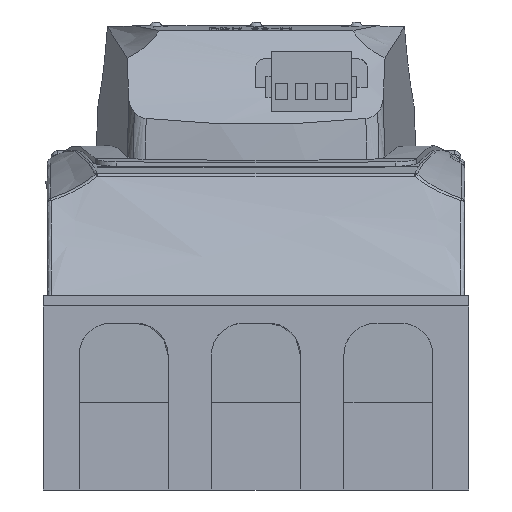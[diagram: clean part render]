
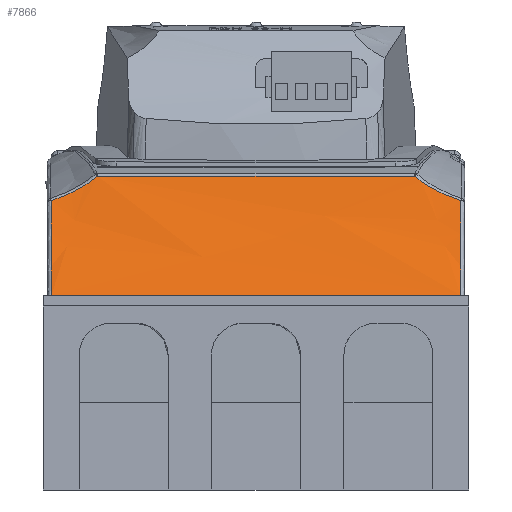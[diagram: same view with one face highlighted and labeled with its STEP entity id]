
A CAD part, left-side view. The second image highlights one B-rep face of the part: STEP entity #7866.
In plain terms, the highlighted face is a extrusion surface.
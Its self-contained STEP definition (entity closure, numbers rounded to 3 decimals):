
#4101=SURFACE_OF_LINEAR_EXTRUSION('',#4986,#14124);
#4986=ELLIPSE('',#32523,35.,12.5);
#7866=ADVANCED_FACE('',(#9473),#4101,.F.);
#9473=FACE_OUTER_BOUND('',#11006,.T.);
#11006=EDGE_LOOP('',(#18232,#18233,#18234,#18235,#18236,#18237));
#12161=LINE('',#43314,#13690);
#12559=LINE('',#54331,#14088);
#13690=VECTOR('',#35145,1.);
#14088=VECTOR('',#36911,1.);
#14124=VECTOR('',#37189,1.);
#18232=ORIENTED_EDGE('',*,*,#28032,.T.);
#18233=ORIENTED_EDGE('',*,*,#27977,.T.);
#18234=ORIENTED_EDGE('',*,*,#27972,.T.);
#18235=ORIENTED_EDGE('',*,*,#27047,.T.);
#18236=ORIENTED_EDGE('',*,*,#26793,.F.);
#18237=ORIENTED_EDGE('',*,*,#28139,.T.);
#24045=VERTEX_POINT('',#43313);
#24046=VERTEX_POINT('',#43315);
#24257=VERTEX_POINT('',#44172);
#24854=VERTEX_POINT('',#54291);
#24857=VERTEX_POINT('',#54328);
#24885=VERTEX_POINT('',#54781);
#26793=EDGE_CURVE('',#24045,#24046,#12161,.T.);
#27047=EDGE_CURVE('',#24257,#24046,#30442,.T.);
#27972=EDGE_CURVE('',#24854,#24257,#30803,.T.);
#27977=EDGE_CURVE('',#24857,#24854,#12559,.T.);
#28032=EDGE_CURVE('',#24885,#24857,#30822,.T.);
#28139=EDGE_CURVE('',#24045,#24885,#30860,.T.);
#30442=B_SPLINE_CURVE_WITH_KNOTS('',3,(#44166,#44167,#44168,#44169,#44170,
#44171),.UNSPECIFIED.,.F.,.F.,(4,2,4),(0.,0.5,1.),.UNSPECIFIED.);
#30803=B_SPLINE_CURVE_WITH_KNOTS('',3,(#54299,#54300,#54301,#54302,#54303,
#54304),.UNSPECIFIED.,.F.,.F.,(4,2,4),(0.,0.5,1.),.UNSPECIFIED.);
#30822=B_SPLINE_CURVE_WITH_KNOTS('',3,(#54775,#54776,#54777,#54778,#54779,
#54780),.UNSPECIFIED.,.F.,.F.,(4,2,4),(0.,0.5,1.),.UNSPECIFIED.);
#30860=B_SPLINE_CURVE_WITH_KNOTS('',3,(#55980,#55981,#55982,#55983,#55984,
#55985),.UNSPECIFIED.,.F.,.F.,(4,2,4),(0.,0.5,1.),.UNSPECIFIED.);
#32523=AXIS2_PLACEMENT_3D('',#55986,#37187,#37188);
#35145=DIRECTION('',(0.,1.,0.));
#36911=DIRECTION('',(0.,1.,0.));
#37187=DIRECTION('',(0.,-1.,0.));
#37188=DIRECTION('',(0.568,0.,0.823));
#37189=DIRECTION('',(0.,-1.,0.));
#43313=CARTESIAN_POINT('',(-175.043,33.,45.002));
#43314=CARTESIAN_POINT('',(-175.043,33.,45.002));
#43315=CARTESIAN_POINT('',(-175.043,135.,45.002));
#44166=CARTESIAN_POINT('',(-159.537,135.,68.653));
#44167=CARTESIAN_POINT('',(-161.463,135.,64.325));
#44168=CARTESIAN_POINT('',(-163.796,135.,60.186));
#44169=CARTESIAN_POINT('',(-168.994,135.,52.289));
#44170=CARTESIAN_POINT('',(-171.874,135.,48.515));
#44171=CARTESIAN_POINT('',(-175.043,135.,45.002));
#44172=CARTESIAN_POINT('',(-159.537,135.,68.653));
#54291=CARTESIAN_POINT('',(-157.184,123.476,74.757));
#54299=CARTESIAN_POINT('',(-157.184,123.476,74.757));
#54300=CARTESIAN_POINT('',(-157.651,125.115,73.302));
#54301=CARTESIAN_POINT('',(-158.088,126.995,72.144));
#54302=CARTESIAN_POINT('',(-158.88,130.869,70.155));
#54303=CARTESIAN_POINT('',(-159.237,132.892,69.327));
#54304=CARTESIAN_POINT('',(-159.537,135.,68.653));
#54328=CARTESIAN_POINT('',(-157.184,44.524,74.757));
#54331=CARTESIAN_POINT('',(-157.184,44.524,74.757));
#54775=CARTESIAN_POINT('',(-159.537,33.,68.653));
#54776=CARTESIAN_POINT('',(-159.237,35.107,69.326));
#54777=CARTESIAN_POINT('',(-158.878,37.144,70.159));
#54778=CARTESIAN_POINT('',(-158.08,41.044,72.166));
#54779=CARTESIAN_POINT('',(-157.649,42.892,73.308));
#54780=CARTESIAN_POINT('',(-157.184,44.524,74.757));
#54781=CARTESIAN_POINT('',(-159.537,33.,68.653));
#55980=CARTESIAN_POINT('',(-175.043,33.,45.002));
#55981=CARTESIAN_POINT('',(-171.879,33.,48.509));
#55982=CARTESIAN_POINT('',(-168.997,33.,52.283));
#55983=CARTESIAN_POINT('',(-163.796,33.,60.186));
#55984=CARTESIAN_POINT('',(-161.463,33.,64.326));
#55985=CARTESIAN_POINT('',(-159.537,33.,68.653));
#55986=CARTESIAN_POINT('',(-177.888,136.,61.55));
